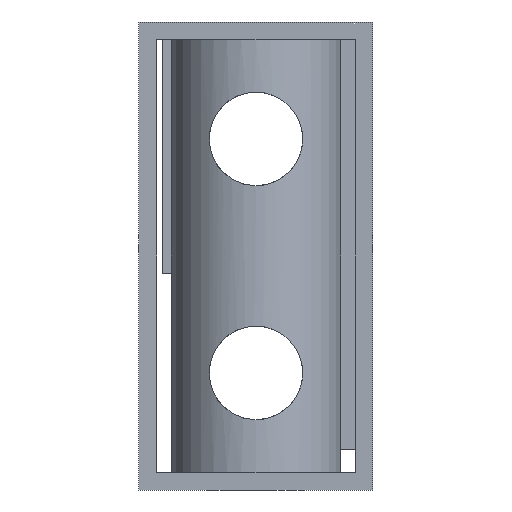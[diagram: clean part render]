
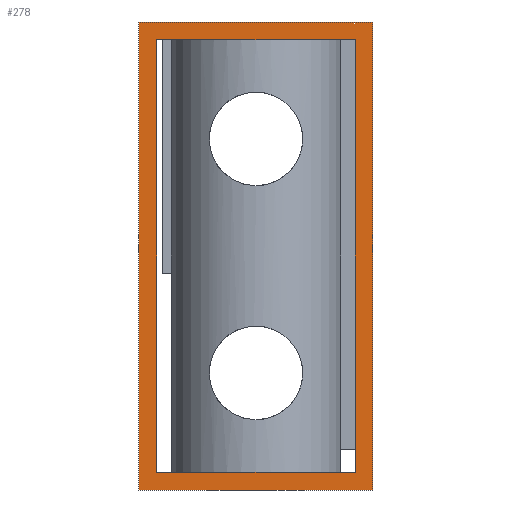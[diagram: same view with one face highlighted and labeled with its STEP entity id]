
A CAD part, front view. The second image highlights one B-rep face of the part: STEP entity #278.
In plain terms, the highlighted planar face has unit normal (0, -1, 0).
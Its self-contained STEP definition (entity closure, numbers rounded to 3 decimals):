
#278 = ADVANCED_FACE( '', ( #627, #628 ), #629, .F. );
#627 = FACE_BOUND( '', #969, .T. );
#628 = FACE_OUTER_BOUND( '', #970, .T. );
#629 = PLANE( '', #971 );
#969 = EDGE_LOOP( '', ( #1521, #1522, #1523, #1524 ) );
#970 = EDGE_LOOP( '', ( #1525, #1526, #1527, #1528 ) );
#971 = AXIS2_PLACEMENT_3D( '', #1529, #1530, #1531 );
#1521 = ORIENTED_EDGE( '', *, *, #1810, .T. );
#1522 = ORIENTED_EDGE( '', *, *, #1620, .T. );
#1523 = ORIENTED_EDGE( '', *, *, #1699, .T. );
#1524 = ORIENTED_EDGE( '', *, *, #1660, .T. );
#1525 = ORIENTED_EDGE( '', *, *, #1759, .F. );
#1526 = ORIENTED_EDGE( '', *, *, #1826, .F. );
#1527 = ORIENTED_EDGE( '', *, *, #1773, .F. );
#1528 = ORIENTED_EDGE( '', *, *, #1626, .F. );
#1529 = CARTESIAN_POINT( '', ( 0., -20., 0. ) );
#1530 = DIRECTION( '', ( 0., 1., 0. ) );
#1531 = DIRECTION( '', ( 0., 0., 1. ) );
#1620 = EDGE_CURVE( '', #1855, #1856, #1857, .T. );
#1626 = EDGE_CURVE( '', #1866, #1867, #1868, .T. );
#1660 = EDGE_CURVE( '', #1929, #1930, #1931, .T. );
#1699 = EDGE_CURVE( '', #1856, #1929, #1997, .T. );
#1759 = EDGE_CURVE( '', #2094, #1866, #2095, .T. );
#1773 = EDGE_CURVE( '', #1867, #2114, #2115, .T. );
#1810 = EDGE_CURVE( '', #1930, #1855, #2167, .T. );
#1826 = EDGE_CURVE( '', #2114, #2094, #2185, .T. );
#1855 = VERTEX_POINT( '', #2352 );
#1856 = VERTEX_POINT( '', #2353 );
#1857 = LINE( '', #2354, #2355 );
#1866 = VERTEX_POINT( '', #2367 );
#1867 = VERTEX_POINT( '', #2368 );
#1868 = LINE( '', #2369, #2370 );
#1929 = VERTEX_POINT( '', #2438 );
#1930 = VERTEX_POINT( '', #2439 );
#1931 = LINE( '', #2440, #2441 );
#1997 = LINE( '', #2521, #2522 );
#2094 = VERTEX_POINT( '', #2917 );
#2095 = LINE( '', #2918, #2919 );
#2114 = VERTEX_POINT( '', #2946 );
#2115 = LINE( '', #2947, #2948 );
#2167 = LINE( '', #3149, #3150 );
#2185 = LINE( '', #3176, #3177 );
#2352 = CARTESIAN_POINT( '', ( -8.5, -20., 28.5 ) );
#2353 = CARTESIAN_POINT( '', ( 8.5, -20., 28.5 ) );
#2354 = CARTESIAN_POINT( '', ( -8.5, -20., 28.5 ) );
#2355 = VECTOR( '', #3206, 1000. );
#2367 = CARTESIAN_POINT( '', ( -10., -20., 30. ) );
#2368 = CARTESIAN_POINT( '', ( 10., -20., 30. ) );
#2369 = CARTESIAN_POINT( '', ( -10., -20., 30. ) );
#2370 = VECTOR( '', #3213, 1000. );
#2438 = CARTESIAN_POINT( '', ( 8.5, -20., -8.5 ) );
#2439 = CARTESIAN_POINT( '', ( -8.5, -20., -8.5 ) );
#2440 = CARTESIAN_POINT( '', ( 8.5, -20., -8.5 ) );
#2441 = VECTOR( '', #3284, 1000. );
#2521 = CARTESIAN_POINT( '', ( 8.5, -20., 28.5 ) );
#2522 = VECTOR( '', #3344, 1000. );
#2917 = CARTESIAN_POINT( '', ( -10., -20., -10. ) );
#2918 = CARTESIAN_POINT( '', ( -10., -20., -10. ) );
#2919 = VECTOR( '', #3412, 1000. );
#2946 = CARTESIAN_POINT( '', ( 10., -20., -10. ) );
#2947 = CARTESIAN_POINT( '', ( 10., -20., 30. ) );
#2948 = VECTOR( '', #3424, 1000. );
#3149 = CARTESIAN_POINT( '', ( -8.5, -20., -8.5 ) );
#3150 = VECTOR( '', #3463, 1000. );
#3176 = CARTESIAN_POINT( '', ( 10., -20., -10. ) );
#3177 = VECTOR( '', #3472, 1000. );
#3206 = DIRECTION( '', ( 1., 0., 0. ) );
#3213 = DIRECTION( '', ( 1., 0., 0. ) );
#3284 = DIRECTION( '', ( -1., 0., 0. ) );
#3344 = DIRECTION( '', ( 0., 0., -1. ) );
#3412 = DIRECTION( '', ( 0., 0., 1. ) );
#3424 = DIRECTION( '', ( 0., 0., -1. ) );
#3463 = DIRECTION( '', ( 0., 0., 1. ) );
#3472 = DIRECTION( '', ( -1., 0., 0. ) );
